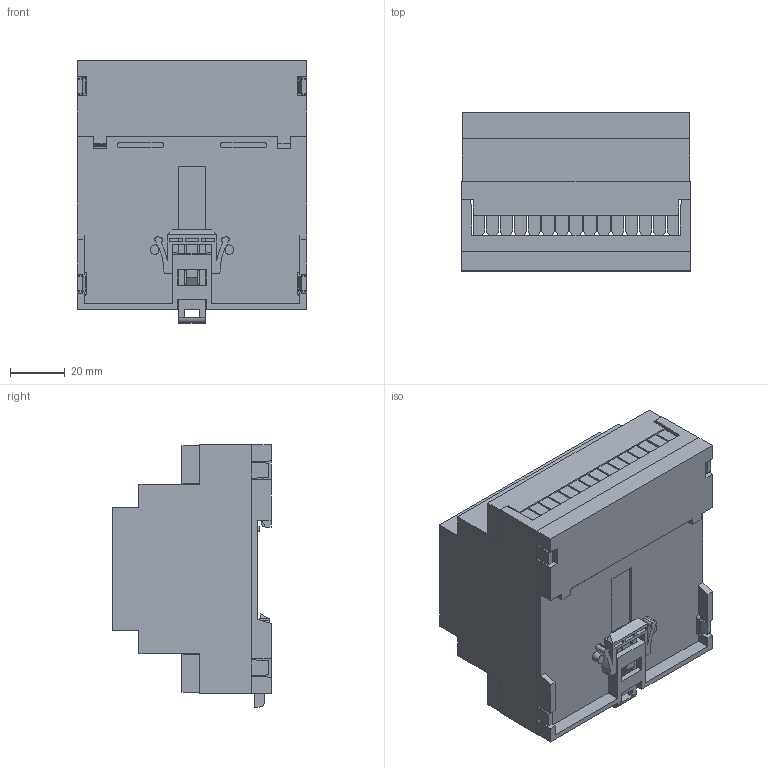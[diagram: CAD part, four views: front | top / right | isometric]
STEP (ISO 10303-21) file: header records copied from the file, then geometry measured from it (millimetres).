
FILE_DESCRIPTION(('STEP AP214'), '1');
FILE_NAME('3102', '', ('UNSPECIFIED'), ('UNSPECIFIED'), 'ASCON STEP Converter 1.6', 'ASCON Math Kernel', '');
FILE_SCHEMA(('AUTOMOTIVE_DESIGN { 1 0 10303 214 3 1 1}'));
Length unit declared in the file: millimetre
Products named in the file (9): D5MG-GUARD; D5MG-WALL CLIP; D5MG-BASE; D5MG-BODY
Assembly tree (9 placements, depth 3):
  (unnamed)
    (unnamed)
      D5MG-GUARD  x2
      D5MG-WALL CLIP
      D5MG-BASE
      D5MG-BODY
    (unnamed)
    (unnamed)
    (unnamed)
Bounding box: 83.6 x 57.7 x 95.8 mm (x, y, z)
Volume: 55966.1 mm3; surface area: 81906.2 mm2
Topology: 14 solids, 14 shells, 2740 faces, 7924 edges, 5292 vertices
Faces by surface type: plane 1749, extrusion 833, cylinder 154, cone 4
Full cylindrical faces by diameter (mm): 3 x6, 4 x1, 4.3 x31, 4.301 x1
Entity records: 103103 total; most frequent: CARTESIAN_POINT 21930, ORIENTED_EDGE 13852, DIRECTION 9687, EDGE_CURVE 6926, VECTOR 5759, LINE 4926, VERTEX_POINT 4636, EDGE_LOOP 2750
